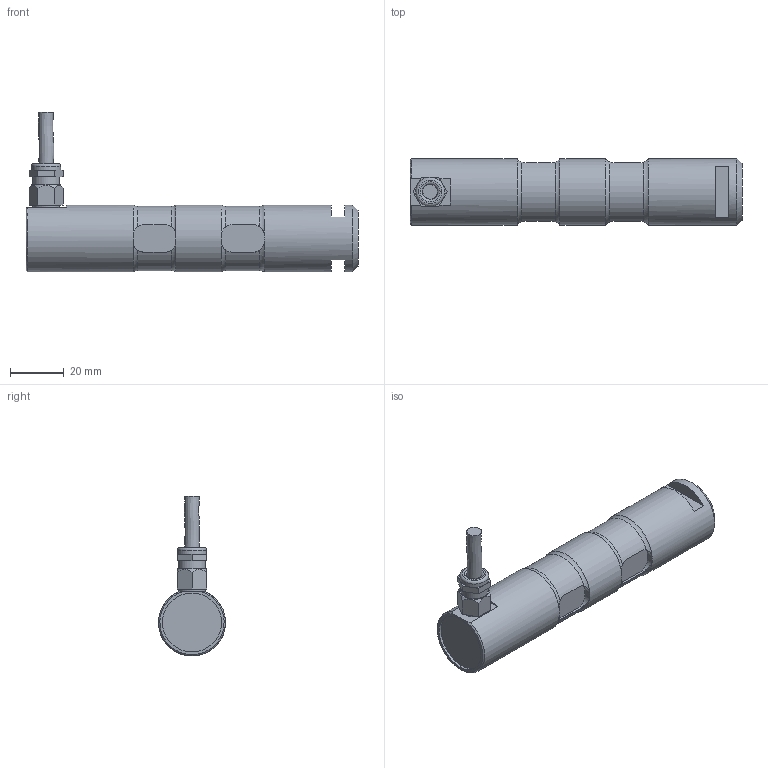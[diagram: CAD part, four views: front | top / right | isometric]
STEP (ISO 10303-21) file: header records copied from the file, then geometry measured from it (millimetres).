
FILE_DESCRIPTION(/* description */ ('Alibre Inc.'),/* implementation_level */ '2;1');
FILE_NAME(/* name */ 'export0',/* time_stamp */ '2011-07-28T21:38:54+02:00',/* author */ (''),/* organization */ (''),/* preprocessor_version */ 'ST-DEVELOPER v10',/* originating_system */ 'Alibre',/* authorisation */ '');
FILE_SCHEMA (('CONFIG_CONTROL_DESIGN'));
Length unit declared in the file: centimetre
Products named in the file (6): ID_1; ID_2; ID_3; ID_4
Bounding box: 124 x 25 x 59.73 mm (x, y, z)
Volume: 58847.8 mm3; surface area: 12977 mm2
Topology: 4 solids, 4 shells, 100 faces, 233 edges, 147 vertices
Faces by surface type: plane 53, cylinder 30, torus 11, cone 5, bspline 1
Full cylindrical faces by diameter (mm): 5.5 x2, 6.917 x1, 8 x1, 10 x1, 10.8 x1, 22 x1, 25 x3
Entity records: 4975 total; most frequent: CARTESIAN_POINT 2371, ORIENTED_EDGE 418, DIRECTION 354, EDGE_CURVE 209, AXIS2_PLACEMENT_3D 155, VERTEX_POINT 142, FACE_BOUND 127, EDGE_LOOP 126
